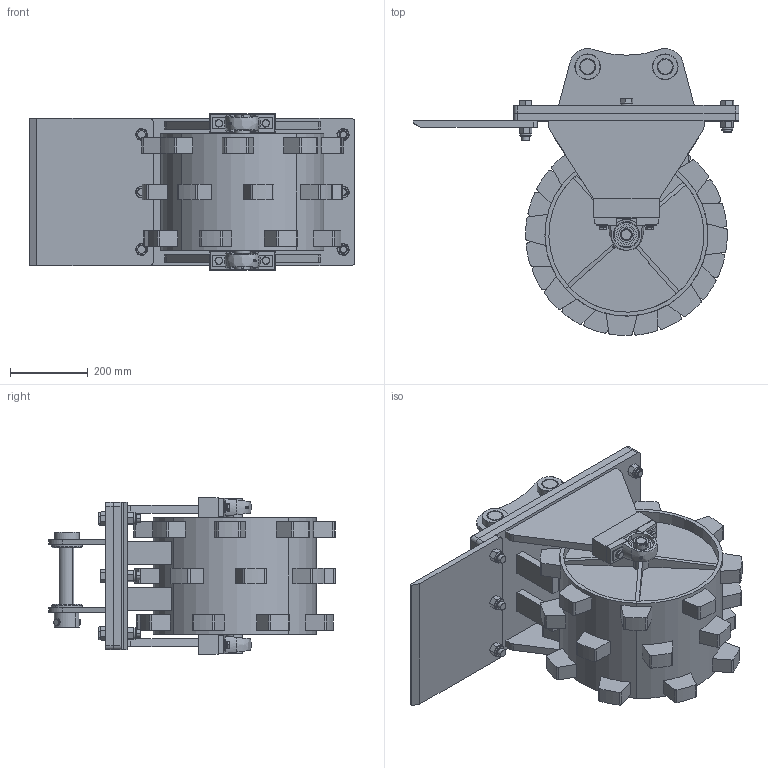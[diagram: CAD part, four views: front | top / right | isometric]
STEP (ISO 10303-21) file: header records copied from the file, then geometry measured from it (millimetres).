
FILE_DESCRIPTION (( 'STEP AP203' ), '1' );
FILE_NAME ('E-CW3T-VIO35阼儂揤妗謫VIO35蟀諉ん.STEP', '2025-10-29T13:10:35', ( '' ), ( '' ), 'SwSTEP 2.0', 'SolidWorks 2018', '' );
FILE_SCHEMA (( 'CONFIG_CONTROL_DESIGN' ));
Length unit declared in the file: millimetre
Products named in the file (29): GB／T 5781-2000六角头螺栓全螺纹 C级M20×60(钢); E-CW3T-VIO35-01蟀諉ん軞傖郪璃; E-KP410GP300-VIO27-KP-10-45#粣杶; E-CW3T-01-01-Q355B源倛啣-儂樓; E-CW3T-02-05-Q355B埴遠啣-儂樓; E-CW3T-02-01-Q355B橙埴啣; GB／T 7810-1995带立式座轴承UCP206(成品); E-CW3T-01-03-Q355B坶啣; E-CW3T-02-02-45#种粣; GB／T 889．1-20001型非金属嵌件六角锁紧螺母M20(钢); GB｣ｯT 5780-2000ﾁﾇﾍｷﾂﾝﾋｨ CｼｶM20｡ﾁ70(ｸﾖ); GB／T 889．1-20001型非金属嵌件六角锁紧螺母M10(钢); GB／T 5781-2000六角头螺栓全螺纹 C级M12×60(8．8级); FXB-T20×130×60-Q355B方形板; E-CW3T-01嘐隅釱郪璃; E-CW3T-VIO35-01-01-Q355B蟀諉ん耜啣; E-CW3T-03-NM400騵艦絮啣; GB／T 93-1987标准型弹性垫圈(装配)20×5(65Mn); GB╱T 5782-2016[六角头螺栓M20×90]_M20×90; E-CW3T-02幗謫郪璃; XZ-φ40×245-φ13×13-45#销轴; E-CW3T-02-03-Q355B加强板; E-CW3T-01-02-Q355B耜啣; E-CW3T-VIO35阼儂揤妗謫VIO35蟀諉ん; E-KP410GP300-VIO27-KP-09-45#粣杶; GB／T 5780-2000六角头螺栓8.8级M10×80; E-CW3T-S40-01-01-Q355B源倛啣-儂樓; GB／T 93-1987标准型弹性垫圈(装配)12×3．1(65Mn); E-CW3T-02-04-NM400騵艦輸
Assembly tree (88 placements, depth 3):
  E-CW3T-VIO35阼儂揤妗謫VIO35蟀諉ん
    E-CW3T-01嘐隅釱郪璃
      E-CW3T-01-01-Q355B源倛啣-儂樓
      E-CW3T-01-02-Q355B耜啣  x2
      E-CW3T-01-03-Q355B坶啣  x2
      FXB-T20×130×60-Q355B方形板  x4
    E-CW3T-02幗謫郪璃
      E-CW3T-02-01-Q355B橙埴啣
      E-CW3T-02-02-45#种粣
      E-CW3T-02-03-Q355B加强板  x8
      E-CW3T-02-04-NM400騵艦輸  x24
      E-CW3T-02-05-Q355B埴遠啣-儂樓  x2
    E-CW3T-03-NM400騵艦絮啣
    E-CW3T-VIO35-01蟀諉ん軞傖郪璃
      E-CW3T-S40-01-01-Q355B源倛啣-儂樓
      E-CW3T-VIO35-01-01-Q355B蟀諉ん耜啣  x2
      E-KP410GP300-VIO27-KP-09-45#粣杶  x2
      E-KP410GP300-VIO27-KP-10-45#粣杶  x2
    GB／T 7810-1995带立式座轴承UCP206(成品)  x2
    GB╱T 5782-2016[六角头螺栓M20×90]_M20×90  x3
    GB｣ｯT 5780-2000ﾁﾇﾍｷﾂﾝﾋｨ CｼｶM20｡ﾁ70(ｸﾖ)  x3
    GB／T 889．1-20001型非金属嵌件六角锁紧螺母M20(钢)  x6
    GB／T 5781-2000六角头螺栓全螺纹 C级M20×60(钢)  x2
    GB／T 93-1987标准型弹性垫圈(装配)20×5(65Mn)  x2
    GB／T 5781-2000六角头螺栓全螺纹 C级M12×60(8．8级)  x4
    GB／T 93-1987标准型弹性垫圈(装配)12×3．1(65Mn)  x4
    XZ-φ40×245-φ13×13-45#销轴  x2
    GB／T 5780-2000六角头螺栓8.8级M10×80  x2
    GB／T 889．1-20001型非金属嵌件六角锁紧螺母M10(钢)  x2
Bounding box: 840 x 739.81 x 404 mm (x, y, z)
Volume: 27557985.2 mm3; surface area: 4124602.4 mm2
Topology: 85 solids, 89 shells, 1660 faces, 3911 edges, 2472 vertices
Faces by surface type: plane 760, cylinder 428, cone 406, torus 44, sphere 16, bspline 6
Entity records: 24233 total; most frequent: CARTESIAN_POINT 4903, DIRECTION 3249, ORIENTED_EDGE 2894, EDGE_CURVE 1447, AXIS2_PLACEMENT_3D 1303, VERTEX_POINT 917, EDGE_LOOP 710, VECTOR 643
